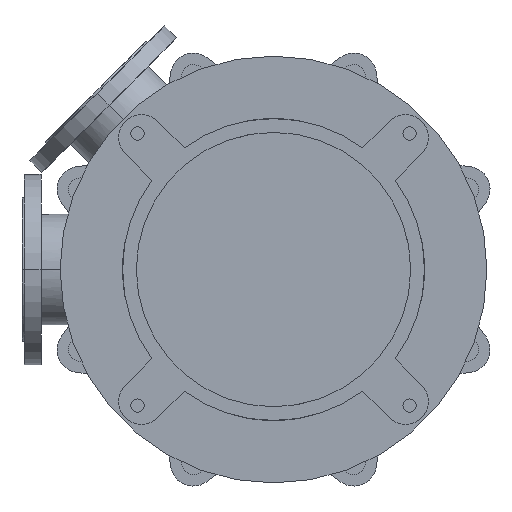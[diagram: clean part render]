
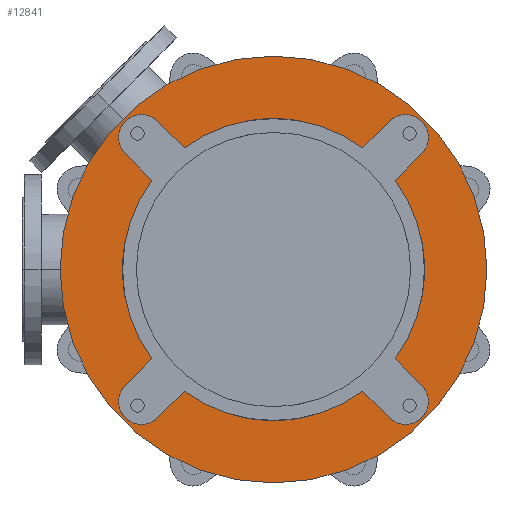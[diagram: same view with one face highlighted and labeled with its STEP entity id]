
A CAD part, front view. The second image highlights one B-rep face of the part: STEP entity #12841.
In plain terms, the highlighted planar face has unit normal (0, -1, 0).
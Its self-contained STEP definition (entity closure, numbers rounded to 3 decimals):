
#2489=CARTESIAN_POINT('',(0.,-25.,0.));
#2490=DIRECTION('',(0.,1.,0.));
#2491=DIRECTION('',(0.592,0.,-0.806));
#2492=AXIS2_PLACEMENT_3D('',#2489,#2490,#2491);
#2507=CARTESIAN_POINT('',(0.,-25.,0.));
#2508=DIRECTION('',(0.,1.,0.));
#2509=DIRECTION('',(0.806,0.,0.592));
#2510=AXIS2_PLACEMENT_3D('',#2507,#2508,#2509);
#2534=CARTESIAN_POINT('',(0.,-25.,0.));
#2535=DIRECTION('',(0.,1.,0.));
#2536=DIRECTION('',(-0.806,0.,-0.592));
#2537=AXIS2_PLACEMENT_3D('',#2534,#2535,#2536);
#2543=CARTESIAN_POINT('',(0.,-25.,0.));
#2544=DIRECTION('',(0.,1.,0.));
#2545=DIRECTION('',(-0.592,0.,0.806));
#2546=AXIS2_PLACEMENT_3D('',#2543,#2544,#2545);
#2721=CARTESIAN_POINT('',(0.,-25.,0.));
#2722=DIRECTION('',(0.,-1.,0.));
#2723=DIRECTION('',(-1.,0.,0.));
#2724=AXIS2_PLACEMENT_3D('',#2721,#2722,#2723);
#2726=CARTESIAN_POINT('',(0.,-25.,0.));
#2727=DIRECTION('',(0.,1.,0.));
#2728=DIRECTION('',(-1.,0.,0.));
#2729=AXIS2_PLACEMENT_3D('',#2726,#2727,#2728);
#2731=CARTESIAN_POINT('',(-173.241,-25.,173.241));
#2732=DIRECTION('',(0.,-1.,0.));
#2733=DIRECTION('',(0.707,0.,0.707));
#2734=AXIS2_PLACEMENT_3D('',#2731,#2732,#2733);
#2736=DIRECTION('',(0.707,0.,-0.707));
#2737=VECTOR('',#2736,49.286);
#2738=CARTESIAN_POINT('',(-194.454,-25.,152.028));
#2739=LINE('',#2738,#2737);
#2740=DIRECTION('',(-0.707,0.,-0.707));
#2741=VECTOR('',#2740,49.286);
#2742=CARTESIAN_POINT('',(-159.604,-25.,-117.178));
#2743=LINE('',#2742,#2741);
#2744=CARTESIAN_POINT('',(-173.241,-25.,-173.241));
#2745=DIRECTION('',(0.,-1.,0.));
#2746=DIRECTION('',(-0.707,0.,0.707));
#2747=AXIS2_PLACEMENT_3D('',#2744,#2745,#2746);
#2749=DIRECTION('',(0.707,0.,0.707));
#2750=VECTOR('',#2749,49.286);
#2751=CARTESIAN_POINT('',(-152.028,-25.,-194.454));
#2752=LINE('',#2751,#2750);
#2753=DIRECTION('',(0.707,0.,-0.707));
#2754=VECTOR('',#2753,49.286);
#2755=CARTESIAN_POINT('',(117.178,-25.,-159.604));
#2756=LINE('',#2755,#2754);
#2757=CARTESIAN_POINT('',(173.241,-25.,-173.241));
#2758=DIRECTION('',(0.,-1.,0.));
#2759=DIRECTION('',(-0.707,0.,-0.707));
#2760=AXIS2_PLACEMENT_3D('',#2757,#2758,#2759);
#2762=DIRECTION('',(-0.707,0.,0.707));
#2763=VECTOR('',#2762,49.286);
#2764=CARTESIAN_POINT('',(194.454,-25.,-152.028));
#2765=LINE('',#2764,#2763);
#2766=DIRECTION('',(0.707,0.,0.707));
#2767=VECTOR('',#2766,49.286);
#2768=CARTESIAN_POINT('',(159.604,-25.,117.178));
#2769=LINE('',#2768,#2767);
#2770=CARTESIAN_POINT('',(173.241,-25.,173.241));
#2771=DIRECTION('',(0.,-1.,0.));
#2772=DIRECTION('',(0.707,0.,-0.707));
#2773=AXIS2_PLACEMENT_3D('',#2770,#2771,#2772);
#2775=DIRECTION('',(-0.707,0.,-0.707));
#2776=VECTOR('',#2775,49.286);
#2777=CARTESIAN_POINT('',(152.028,-25.,194.454));
#2778=LINE('',#2777,#2776);
#2779=DIRECTION('',(-0.707,0.,0.707));
#2780=VECTOR('',#2779,49.286);
#2781=CARTESIAN_POINT('',(-117.178,-25.,159.604));
#2782=LINE('',#2781,#2780);
#8372=CARTESIAN_POINT('',(-280.,-25.,0.));
#8373=CARTESIAN_POINT('',(280.,-25.,0.));
#8374=VERTEX_POINT('',#8372);
#8375=VERTEX_POINT('',#8373);
#8396=CARTESIAN_POINT('',(-194.454,-25.,-152.028));
#8397=CARTESIAN_POINT('',(-152.028,-25.,-194.454));
#8398=VERTEX_POINT('',#8396);
#8399=VERTEX_POINT('',#8397);
#8400=CARTESIAN_POINT('',(-117.178,-25.,-159.604));
#8401=VERTEX_POINT('',#8400);
#8402=CARTESIAN_POINT('',(-159.604,-25.,-117.178));
#8403=VERTEX_POINT('',#8402);
#8412=CARTESIAN_POINT('',(152.028,-25.,-194.454));
#8413=CARTESIAN_POINT('',(194.454,-25.,-152.028));
#8414=VERTEX_POINT('',#8412);
#8415=VERTEX_POINT('',#8413);
#8416=CARTESIAN_POINT('',(159.604,-25.,-117.178));
#8417=VERTEX_POINT('',#8416);
#8418=CARTESIAN_POINT('',(117.178,-25.,-159.604));
#8419=VERTEX_POINT('',#8418);
#8428=CARTESIAN_POINT('',(194.454,-25.,152.028));
#8429=CARTESIAN_POINT('',(152.028,-25.,194.454));
#8430=VERTEX_POINT('',#8428);
#8431=VERTEX_POINT('',#8429);
#8432=CARTESIAN_POINT('',(117.178,-25.,159.604));
#8433=VERTEX_POINT('',#8432);
#8434=CARTESIAN_POINT('',(159.604,-25.,117.178));
#8435=VERTEX_POINT('',#8434);
#8444=CARTESIAN_POINT('',(-152.028,-25.,194.454));
#8445=CARTESIAN_POINT('',(-194.454,-25.,152.028));
#8446=VERTEX_POINT('',#8444);
#8447=VERTEX_POINT('',#8445);
#8448=CARTESIAN_POINT('',(-159.604,-25.,117.178));
#8449=VERTEX_POINT('',#8448);
#8450=CARTESIAN_POINT('',(-117.178,-25.,159.604));
#8451=VERTEX_POINT('',#8450);
#12801=CARTESIAN_POINT('',(0.,-25.,0.));
#12802=DIRECTION('',(0.,-1.,0.));
#12803=DIRECTION('',(-1.,0.,0.));
#12804=AXIS2_PLACEMENT_3D('',#12801,#12802,#12803);
#12805=PLANE('',#12804);
#12807=ORIENTED_EDGE('',*,*,#12806,.F.);
#12809=ORIENTED_EDGE('',*,*,#12808,.T.);
#12810=EDGE_LOOP('',(#12807,#12809));
#12811=FACE_OUTER_BOUND('',#12810,.F.);
#12813=ORIENTED_EDGE('',*,*,#12812,.T.);
#12815=ORIENTED_EDGE('',*,*,#12814,.T.);
#12816=ORIENTED_EDGE('',*,*,#12754,.F.);
#12818=ORIENTED_EDGE('',*,*,#12817,.T.);
#12820=ORIENTED_EDGE('',*,*,#12819,.T.);
#12822=ORIENTED_EDGE('',*,*,#12821,.T.);
#12823=ORIENTED_EDGE('',*,*,#12707,.F.);
#12824=ORIENTED_EDGE('',*,*,#12791,.T.);
#12826=ORIENTED_EDGE('',*,*,#12825,.T.);
#12828=ORIENTED_EDGE('',*,*,#12827,.T.);
#12829=ORIENTED_EDGE('',*,*,#12728,.F.);
#12831=ORIENTED_EDGE('',*,*,#12830,.T.);
#12833=ORIENTED_EDGE('',*,*,#12832,.T.);
#12835=ORIENTED_EDGE('',*,*,#12834,.T.);
#12836=ORIENTED_EDGE('',*,*,#12772,.F.);
#12838=ORIENTED_EDGE('',*,*,#12837,.T.);
#12839=EDGE_LOOP('',(#12813,#12815,#12816,#12818,#12820,#12822,#12823,#12824,
#12826,#12828,#12829,#12831,#12833,#12835,#12836,#12838));
#12840=FACE_BOUND('',#12839,.F.);
#12841=ADVANCED_FACE('',(#12811,#12840),#12805,.T.);
#2493=CIRCLE('',#2492,198.);
#2511=CIRCLE('',#2510,198.);
#2538=CIRCLE('',#2537,198.);
#2547=CIRCLE('',#2546,198.);
#2725=CIRCLE('',#2724,280.);
#2730=CIRCLE('',#2729,280.);
#2735=CIRCLE('',#2734,30.);
#2748=CIRCLE('',#2747,30.);
#2761=CIRCLE('',#2760,30.);
#2774=CIRCLE('',#2773,30.);
#12707=EDGE_CURVE('',#8419,#8401,#2493,.T.);
#12728=EDGE_CURVE('',#8435,#8417,#2511,.T.);
#12754=EDGE_CURVE('',#8403,#8449,#2538,.T.);
#12772=EDGE_CURVE('',#8451,#8433,#2547,.T.);
#12791=EDGE_CURVE('',#8419,#8414,#2756,.T.);
#12806=EDGE_CURVE('',#8374,#8375,#2725,.T.);
#12808=EDGE_CURVE('',#8374,#8375,#2730,.T.);
#12812=EDGE_CURVE('',#8446,#8447,#2735,.T.);
#12814=EDGE_CURVE('',#8447,#8449,#2739,.T.);
#12817=EDGE_CURVE('',#8403,#8398,#2743,.T.);
#12819=EDGE_CURVE('',#8398,#8399,#2748,.T.);
#12821=EDGE_CURVE('',#8399,#8401,#2752,.T.);
#12825=EDGE_CURVE('',#8414,#8415,#2761,.T.);
#12827=EDGE_CURVE('',#8415,#8417,#2765,.T.);
#12830=EDGE_CURVE('',#8435,#8430,#2769,.T.);
#12832=EDGE_CURVE('',#8430,#8431,#2774,.T.);
#12834=EDGE_CURVE('',#8431,#8433,#2778,.T.);
#12837=EDGE_CURVE('',#8451,#8446,#2782,.T.);
